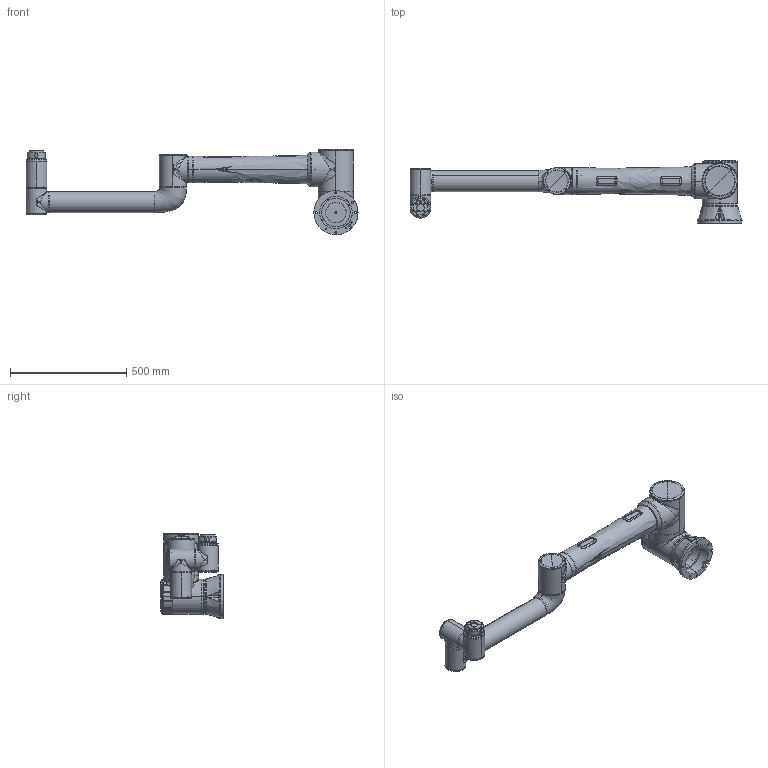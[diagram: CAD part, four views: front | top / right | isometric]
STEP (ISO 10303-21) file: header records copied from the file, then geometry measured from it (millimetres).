
FILE_DESCRIPTION (( 'STEP AP214' ), '1' );
FILE_NAME ('RD20-FR10-V6.0Èí¼þÄ£ÐÍ.step', '2023-03-21T01:54:49', ( '' ), ( '' ), 'SwSTEP 2.0', 'SolidWorks 2018', '' );
FILE_SCHEMA (( 'AUTOMOTIVE_DESIGN' ));
Length unit declared in the file: millimetre
Products named in the file (7): RD20-FR10-V6.0-1; RD20-FR10-V6.0-3; RD20-FR10-V6.0-2; RD20-FR10-V6.0-5; RD20-FR10-V6.0-4; RD20-FR10-V6.0软件模型; RD20-FR10-V6.0-7
Assembly tree (7 placements, depth 2):
  RD20-FR10-V6.0软件模型
    RD20-FR10-V6.0-1
    RD20-FR10-V6.0-2
    RD20-FR10-V6.0-3
    RD20-FR10-V6.0-4
    RD20-FR10-V6.0-5  x2
    RD20-FR10-V6.0-7
Bounding box: 1425.87 x 266.69 x 366.69 mm (x, y, z)
Volume: 22180067.4 mm3; surface area: 1170710.2 mm2
Topology: 35 solids, 74 shells, 2193 faces, 5173 edges, 3192 vertices
Faces by surface type: plane 759, cylinder 686, bspline 352, cone 239, sphere 79, torus 78
Entity records: 146485 total; most frequent: CARTESIAN_POINT 98402, ORIENTED_EDGE 9356, DIRECTION 8634, EDGE_CURVE 4678, AXIS2_PLACEMENT_3D 3410, VERTEX_POINT 2923, EDGE_LOOP 2207, ADVANCED_FACE 2018
